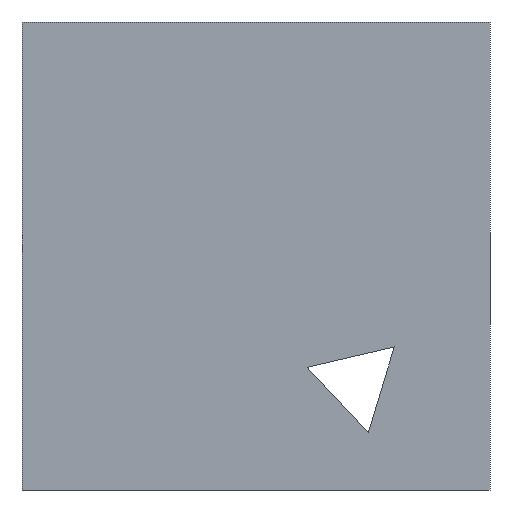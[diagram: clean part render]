
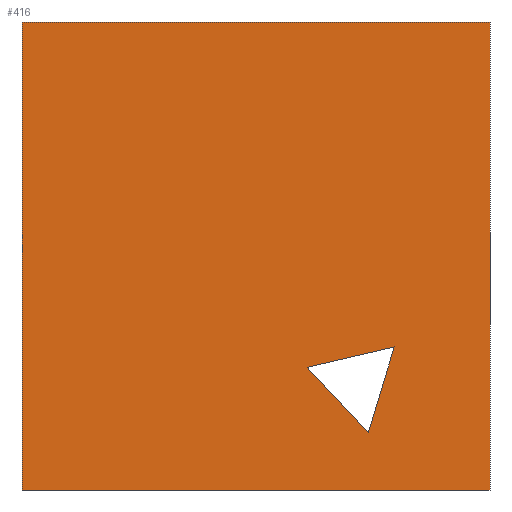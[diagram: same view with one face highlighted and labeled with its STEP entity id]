
A CAD part, left-side view. The second image highlights one B-rep face of the part: STEP entity #416.
In plain terms, the highlighted planar face has unit normal (-1, 0, 0).
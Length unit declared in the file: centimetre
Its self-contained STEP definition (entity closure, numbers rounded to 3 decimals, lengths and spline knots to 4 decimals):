
#6 = DIRECTION ( 'NONE',  ( 0., 0., -1. ) ) ;
#7 = DIRECTION ( 'NONE',  ( 0., 0.29, -0.957 ) ) ;
#10 = EDGE_CURVE ( 'NONE', #439, #49, #386, .T. ) ;
#18 = CARTESIAN_POINT ( 'NONE',  ( 0., 0., 1000. ) ) ;
#27 = VECTOR ( 'NONE', #72, 100. ) ;
#31 = DIRECTION ( 'NONE',  ( 0., -1., 0. ) ) ;
#36 = DIRECTION ( 'NONE',  ( 0., 0., -1. ) ) ;
#49 = VERTEX_POINT ( 'NONE', #18 ) ;
#50 = CARTESIAN_POINT ( 'NONE',  ( 0., 390.8731, 262.292 ) ) ;
#51 = LINE ( 'NONE', #367, #315 ) ;
#72 = DIRECTION ( 'NONE',  ( 0., -1., 0. ) ) ;
#78 = CARTESIAN_POINT ( 'NONE',  ( 0., 0., 1000. ) ) ;
#84 = EDGE_CURVE ( 'NONE', #184, #122, #51, .T. ) ;
#91 = CARTESIAN_POINT ( 'NONE',  ( 0., 1000., 1000. ) ) ;
#101 = VECTOR ( 'NONE', #36, 100. ) ;
#122 = VERTEX_POINT ( 'NONE', #318 ) ;
#124 = VECTOR ( 'NONE', #31, 100. ) ;
#131 = AXIS2_PLACEMENT_3D ( 'NONE', #390, #430, #150 ) ;
#150 = DIRECTION ( 'NONE',  ( 0., 0., -1. ) ) ;
#160 = VECTOR ( 'NONE', #6, 100. ) ;
#162 = CARTESIAN_POINT ( 'NONE',  ( 0., 204.5428, 305.8865 ) ) ;
#175 = CARTESIAN_POINT ( 'NONE',  ( 0., 204.5428, 305.8865 ) ) ;
#183 = CARTESIAN_POINT ( 'NONE',  ( 0., 1000., 0. ) ) ;
#184 = VERTEX_POINT ( 'NONE', #162 ) ;
#190 = EDGE_CURVE ( 'NONE', #122, #199, #523, .T. ) ;
#199 = VERTEX_POINT ( 'NONE', #360 ) ;
#200 = ORIENTED_EDGE ( 'NONE', *, *, #10, .F. ) ;
#203 = DIRECTION ( 'NONE',  ( 0., 0.684, 0.729 ) ) ;
#207 = DIRECTION ( 'NONE',  ( 0., -0.974, 0.228 ) ) ;
#224 = CARTESIAN_POINT ( 'NONE',  ( 0., 0., 0. ) ) ;
#244 = EDGE_CURVE ( 'NONE', #199, #184, #328, .T. ) ;
#245 = EDGE_CURVE ( 'NONE', #439, #355, #447, .T. ) ;
#261 = ORIENTED_EDGE ( 'NONE', *, *, #452, .T. ) ;
#268 = FACE_BOUND ( 'NONE', #466, .T. ) ;
#283 = ORIENTED_EDGE ( 'NONE', *, *, #245, .T. ) ;
#293 = CARTESIAN_POINT ( 'NONE',  ( 0., 1000., 1000. ) ) ;
#305 = CARTESIAN_POINT ( 'NONE',  ( 0., 1000., 1000. ) ) ;
#308 = ORIENTED_EDGE ( 'NONE', *, *, #190, .T. ) ;
#315 = VECTOR ( 'NONE', #7, 100. ) ;
#318 = CARTESIAN_POINT ( 'NONE',  ( 0., 259.954, 122.7225 ) ) ;
#328 = LINE ( 'NONE', #175, #336 ) ;
#336 = VECTOR ( 'NONE', #207, 100. ) ;
#345 = LINE ( 'NONE', #183, #27 ) ;
#355 = VERTEX_POINT ( 'NONE', #373 ) ;
#360 = CARTESIAN_POINT ( 'NONE',  ( 0., 390.8731, 262.292 ) ) ;
#367 = CARTESIAN_POINT ( 'NONE',  ( 0., 259.954, 122.7225 ) ) ;
#373 = CARTESIAN_POINT ( 'NONE',  ( 0., 1000., 0. ) ) ;
#374 = VERTEX_POINT ( 'NONE', #224 ) ;
#385 = LINE ( 'NONE', #78, #101 ) ;
#386 = LINE ( 'NONE', #293, #124 ) ;
#390 = CARTESIAN_POINT ( 'NONE',  ( 0., 1000., 1000. ) ) ;
#406 = VECTOR ( 'NONE', #203, 100. ) ;
#416 = ADVANCED_FACE ( 'NONE', ( #268, #422 ), #510, .F. ) ;
#418 = EDGE_LOOP ( 'NONE', ( #261, #531, #200, #283 ) ) ;
#421 = ORIENTED_EDGE ( 'NONE', *, *, #244, .T. ) ;
#422 = FACE_OUTER_BOUND ( 'NONE', #418, .T. ) ;
#429 = ORIENTED_EDGE ( 'NONE', *, *, #84, .T. ) ;
#430 = DIRECTION ( 'NONE',  ( 1., 0., 0. ) ) ;
#439 = VERTEX_POINT ( 'NONE', #305 ) ;
#447 = LINE ( 'NONE', #91, #160 ) ;
#452 = EDGE_CURVE ( 'NONE', #355, #374, #345, .T. ) ;
#466 = EDGE_LOOP ( 'NONE', ( #429, #308, #421 ) ) ;
#470 = EDGE_CURVE ( 'NONE', #49, #374, #385, .T. ) ;
#510 = PLANE ( 'NONE',  #131 ) ;
#523 = LINE ( 'NONE', #50, #406 ) ;
#531 = ORIENTED_EDGE ( 'NONE', *, *, #470, .F. ) ;
